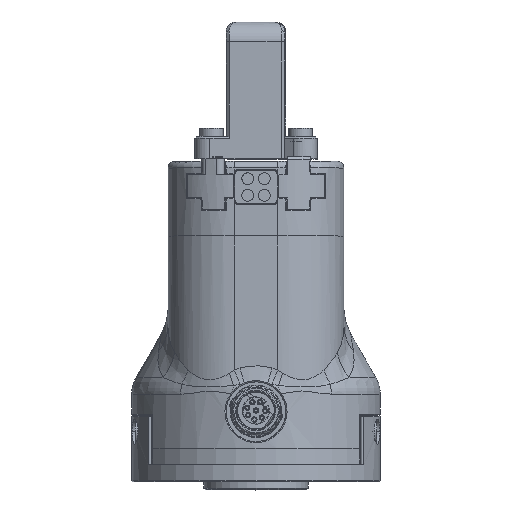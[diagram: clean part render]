
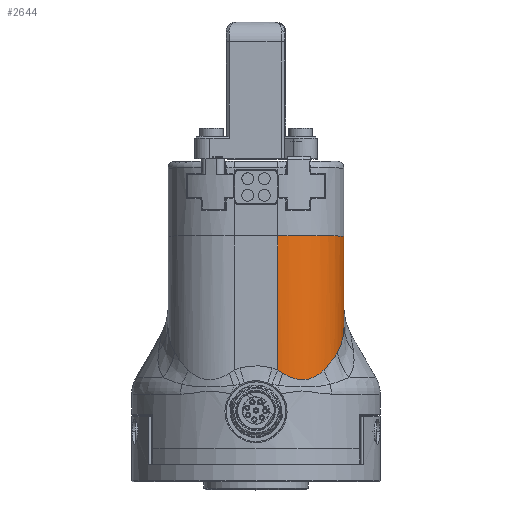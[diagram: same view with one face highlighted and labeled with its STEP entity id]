
A CAD part, top view. The second image highlights one B-rep face of the part: STEP entity #2644.
In plain terms, the highlighted cylindrical face has radius 20 mm (diameter 40 mm), a partial arc.
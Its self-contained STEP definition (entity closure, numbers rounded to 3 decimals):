
#304 = CARTESIAN_POINT ( 'NONE',  ( 8.562, -35.901, -77.549 ) ) ;
#2644 = ADVANCED_FACE ( 'NONE', ( #84715 ), #26818, .T. ) ;
#4169 = EDGE_CURVE ( 'NONE', #60964, #89088, #62608, .T. ) ;
#7228 = CARTESIAN_POINT ( 'NONE',  ( 19.815, -30.959, -76.872 ) ) ;
#7551 = VECTOR ( 'NONE', #78310, 1000. ) ;
#7782 = CARTESIAN_POINT ( 'NONE',  ( 6.994, -36., -76.567 ) ) ;
#8133 = CARTESIAN_POINT ( 'NONE',  ( 24.555, -24.603, -71.018 ) ) ;
#8242 = CARTESIAN_POINT ( 'NONE',  ( 6.5, -36., -76.217 ) ) ;
#11997 = CARTESIAN_POINT ( 'NONE',  ( 24.555, -24.603, -71.018 ) ) ;
#12445 = CARTESIAN_POINT ( 'NONE',  ( 22.124, -28.539, -74.418 ) ) ;
#14110 = CARTESIAN_POINT ( 'NONE',  ( 10.842, -35.525, -78.591 ) ) ;
#14136 = CARTESIAN_POINT ( 'NONE',  ( 26.5, -16., -62.924 ) ) ;
#14576 = CARTESIAN_POINT ( 'NONE',  ( 17.11, -32.956, -78.547 ) ) ;
#15599 = EDGE_CURVE ( 'NONE', #60964, #67354, #37184, .T. ) ;
#17535 = VECTOR ( 'NONE', #87332, 1000. ) ;
#18161 = EDGE_CURVE ( 'NONE', #68152, #67354, #72520, .T. ) ;
#18947 = CARTESIAN_POINT ( 'NONE',  ( 26.5, -16., -62.924 ) ) ;
#19911 = DIRECTION ( 'NONE',  ( 0., 0., -1. ) ) ;
#20268 = CARTESIAN_POINT ( 'NONE',  ( 23.46, -26.662, -72.712 ) ) ;
#21922 = CARTESIAN_POINT ( 'NONE',  ( 17.606, -32.636, -78.317 ) ) ;
#22266 = CARTESIAN_POINT ( 'NONE',  ( 6.5, -36., -35.838 ) ) ;
#22334 = VERTEX_POINT ( 'NONE', #8242 ) ;
#26818 = CYLINDRICAL_SURFACE ( 'NONE', #34643, 20. ) ;
#27471 = CARTESIAN_POINT ( 'NONE',  ( 19.003, -31.651, -77.529 ) ) ;
#27925 = CARTESIAN_POINT ( 'NONE',  ( 14.391, -34.388, -79.202 ) ) ;
#28609 = CARTESIAN_POINT ( 'NONE',  ( 8.018, -35.942, -77.223 ) ) ;
#30433 = VERTEX_POINT ( 'NONE', #28609 ) ;
#31142 = ORIENTED_EDGE ( 'NONE', *, *, #73520, .T. ) ;
#32709 = CARTESIAN_POINT ( 'NONE',  ( 20.544, -30.24, -76.127 ) ) ;
#33026 = ORIENTED_EDGE ( 'NONE', *, *, #84836, .T. ) ;
#34391 = CARTESIAN_POINT ( 'NONE',  ( 16.853, -33.114, -78.652 ) ) ;
#34643 = AXIS2_PLACEMENT_3D ( 'NONE', #47933, #76417, #48826 ) ;
#37184 = LINE ( 'NONE', #68377, #17535 ) ;
#37491 = EDGE_CURVE ( 'NONE', #78385, #68152, #78199, .T. ) ;
#39401 = EDGE_LOOP ( 'NONE', ( #75234, #58360, #50358, #33026, #31142, #49457, #68223 ) ) ;
#41506 = CARTESIAN_POINT ( 'NONE',  ( 6.5, -16., -35.838 ) ) ;
#41725 = CARTESIAN_POINT ( 'NONE',  ( 13.793, -34.634, -79.207 ) ) ;
#43551 = AXIS2_PLACEMENT_3D ( 'NONE', #41506, #19911, #47930 ) ;
#44315 = LINE ( 'NONE', #22266, #7551 ) ;
#47930 = DIRECTION ( 'NONE',  ( 1., 0., 0. ) ) ;
#47933 = CARTESIAN_POINT ( 'NONE',  ( 6.5, -16., -35.838 ) ) ;
#48597 = CARTESIAN_POINT ( 'NONE',  ( 12.6, -35.058, -79.082 ) ) ;
#48826 = DIRECTION ( 'NONE',  ( 1., 0., 0. ) ) ;
#49457 = ORIENTED_EDGE ( 'NONE', *, *, #37491, .T. ) ;
#49531 = EDGE_CURVE ( 'NONE', #89088, #22334, #44315, .T. ) ;
#49957 = CARTESIAN_POINT ( 'NONE',  ( 15.527, -33.858, -79.061 ) ) ;
#50358 = ORIENTED_EDGE ( 'NONE', *, *, #49531, .T. ) ;
#50408 = CARTESIAN_POINT ( 'NONE',  ( 26.205, -19.501, -66.529 ) ) ;
#56306 = CARTESIAN_POINT ( 'NONE',  ( 9.118, -35.836, -77.848 ) ) ;
#56823 = CARTESIAN_POINT ( 'NONE',  ( 11.133, -35.458, -78.691 ) ) ;
#56937 = CARTESIAN_POINT ( 'NONE',  ( 8.018, -35.942, -77.223 ) ) ;
#58211 = CARTESIAN_POINT ( 'NONE',  ( 25.263, -23.118, -69.836 ) ) ;
#58360 = ORIENTED_EDGE ( 'NONE', *, *, #4169, .T. ) ;
#58842 = CARTESIAN_POINT ( 'NONE',  ( 6.5, -36., -35.838 ) ) ;
#60116 = CARTESIAN_POINT ( 'NONE',  ( 20.544, -30.24, -76.127 ) ) ;
#60964 = VERTEX_POINT ( 'NONE', #69641 ) ;
#61147 = CARTESIAN_POINT ( 'NONE',  ( 21.377, -29.418, -75.276 ) ) ;
#61541 = CARTESIAN_POINT ( 'NONE',  ( 24.555, -24.603, -71.018 ) ) ;
#62608 = CIRCLE ( 'NONE', #43551, 20. ) ;
#62832 = CARTESIAN_POINT ( 'NONE',  ( 10.262, -35.645, -78.367 ) ) ;
#63301 = CARTESIAN_POINT ( 'NONE',  ( 26.317, -18.788, -65.832 ) ) ;
#67354 = VERTEX_POINT ( 'NONE', #18947 ) ;
#68152 = VERTEX_POINT ( 'NONE', #61541 ) ;
#68223 = ORIENTED_EDGE ( 'NONE', *, *, #18161, .T. ) ;
#68377 = CARTESIAN_POINT ( 'NONE',  ( 26.5, -16., -35.838 ) ) ;
#68516 = CARTESIAN_POINT ( 'NONE',  ( 24.049, -25.665, -71.862 ) ) ;
#69641 = CARTESIAN_POINT ( 'NONE',  ( 26.5, -16., -35.838 ) ) ;
#71183 = CARTESIAN_POINT ( 'NONE',  ( 7.495, -35.982, -76.91 ) ) ;
#72009 = CARTESIAN_POINT ( 'NONE',  ( 26.465, -17.378, -64.4 ) ) ;
#72520 = B_SPLINE_CURVE_WITH_KNOTS ( 'NONE', 3,
 ( #8133, #58211, #78453, #50408, #63301, #72009, #77112, #14136 ),
 .UNSPECIFIED., .F., .F.,
 ( 4, 2, 2, 4 ),
 ( 0.051, 0.057, 0.06, 0.063 ),
 .UNSPECIFIED. ) ;
#73520 = EDGE_CURVE ( 'NONE', #30433, #78385, #78025, .T. ) ;
#75234 = ORIENTED_EDGE ( 'NONE', *, *, #15599, .F. ) ;
#76417 = DIRECTION ( 'NONE',  ( 0., 0., -1. ) ) ;
#77089 = CARTESIAN_POINT ( 'NONE',  ( 17.845, -32.474, -78.193 ) ) ;
#77112 = CARTESIAN_POINT ( 'NONE',  ( 26.5, -16.682, -63.668 ) ) ;
#77993 = CARTESIAN_POINT ( 'NONE',  ( 20.544, -30.24, -76.127 ) ) ;
#78025 = B_SPLINE_CURVE_WITH_KNOTS ( 'NONE', 3,
 ( #78351, #304, #56306, #84404, #62832, #14110, #56823, #84921, #48597, #41725, #27925, #49957, #84487, #34391, #14576, #21922, #77089, #27471, #7228, #77993 ),
 .UNSPECIFIED., .F., .F.,
 ( 4, 2, 2, 2, 2, 2, 2, 2, 2, 4 ),
 ( 0.004, 0.006, 0.007, 0.008, 0.01, 0.012, 0.014, 0.015, 0.016, 0.02 ),
 .UNSPECIFIED. ) ;
#78199 = B_SPLINE_CURVE_WITH_KNOTS ( 'NONE', 3,
 ( #32709, #61147, #12445, #20268, #68516, #11997 ),
 .UNSPECIFIED., .F., .F.,
 ( 4, 2, 4 ),
 ( 0.046, 0.051, 0.055 ),
 .UNSPECIFIED. ) ;
#78310 = DIRECTION ( 'NONE',  ( 0., 0., -1. ) ) ;
#78351 = CARTESIAN_POINT ( 'NONE',  ( 8.018, -35.942, -77.223 ) ) ;
#78385 = VERTEX_POINT ( 'NONE', #60116 ) ;
#78453 = CARTESIAN_POINT ( 'NONE',  ( 25.74, -21.656, -68.56 ) ) ;
#80212 = B_SPLINE_CURVE_WITH_KNOTS ( 'NONE', 3,
 ( #85045, #7782, #71183, #56937 ),
 .UNSPECIFIED., .F., .F.,
 ( 4, 4 ),
 ( 0.006, 0.007 ),
 .UNSPECIFIED. ) ;
#84404 = CARTESIAN_POINT ( 'NONE',  ( 9.972, -35.698, -78.243 ) ) ;
#84487 = CARTESIAN_POINT ( 'NONE',  ( 16.071, -33.572, -78.928 ) ) ;
#84715 = FACE_OUTER_BOUND ( 'NONE', #39401, .T. ) ;
#84836 = EDGE_CURVE ( 'NONE', #22334, #30433, #80212, .T. ) ;
#84921 = CARTESIAN_POINT ( 'NONE',  ( 12.01, -35.236, -78.956 ) ) ;
#85045 = CARTESIAN_POINT ( 'NONE',  ( 6.5, -36., -76.217 ) ) ;
#87332 = DIRECTION ( 'NONE',  ( 0., 0., -1. ) ) ;
#89088 = VERTEX_POINT ( 'NONE', #58842 ) ;
